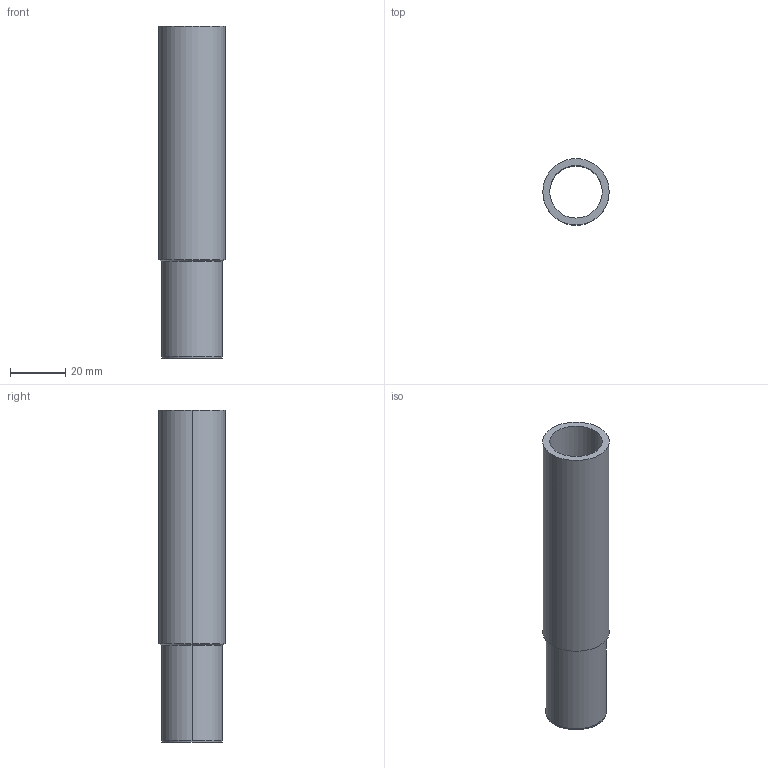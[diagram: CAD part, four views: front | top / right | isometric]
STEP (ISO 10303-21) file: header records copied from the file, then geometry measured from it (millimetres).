
FILE_DESCRIPTION(('OneSpaceDesigner STEP Export'),'2;1');
FILE_NAME('C1432 24x22.stp','2010-06-15T16:29:06',(''),(''),'OneSpace Designer STEP processor for AP214 (Solid Model)','OneSpace Modeling 15.00A 14-Mar-2007 (C) CoCreate Software GmbH','');
FILE_SCHEMA(('AUTOMOTIVE_DESIGN { 1 0 10303 214 1 1 1 1 }'));
Length unit declared in the file: millimetre
Products named in the file (2): C1432_24x22
Assembly tree (1 placements, depth 2):
  C1432_24x22
    C1432_24x22
Bounding box: 24 x 24 x 120 mm (x, y, z)
Volume: 17711.2 mm3; surface area: 16289.6 mm2
Topology: 1 solids, 1 shells, 12 faces, 24 edges, 14 vertices
Faces by surface type: cylinder 6, cone 4, plane 2
Entity records: 303 total; most frequent: ORIENTED_EDGE 48, DIRECTION 42, CARTESIAN_POINT 40, EDGE_CURVE 24, AXIS2_PLACEMENT_3D 16, VERTEX_POINT 14, EDGE_LOOP 14, FACE_OUTER_BOUND 12
